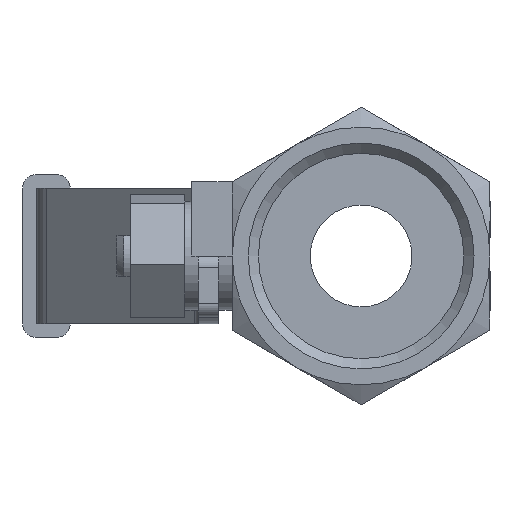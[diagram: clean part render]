
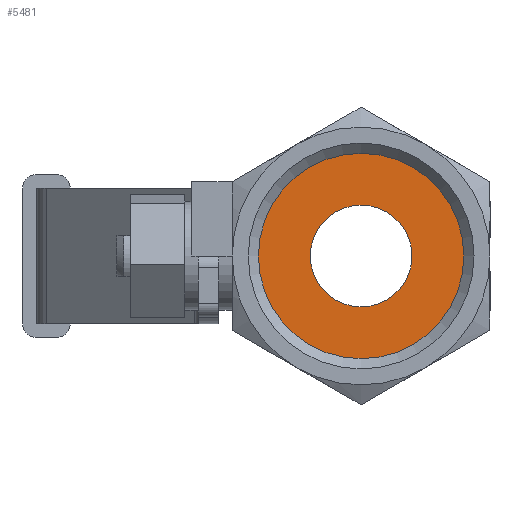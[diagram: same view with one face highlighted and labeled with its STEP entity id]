
A CAD part, left-side view. The second image highlights one B-rep face of the part: STEP entity #5481.
In plain terms, the highlighted planar face has unit normal (-1, 0, 0).
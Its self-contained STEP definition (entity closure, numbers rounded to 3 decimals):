
#137=FACE_BOUND('',#910,.T.);
#331=PLANE('',#5889);
#591=FACE_OUTER_BOUND('',#909,.T.);
#909=EDGE_LOOP('',(#4699));
#910=EDGE_LOOP('',(#4700));
#2066=CIRCLE('',#5549,7.5);
#2163=CIRCLE('',#5888,15.146);
#2192=VERTEX_POINT('',#7346);
#2625=VERTEX_POINT('',#8718);
#2674=EDGE_CURVE('',#2192,#2192,#2066,.T.);
#3323=EDGE_CURVE('',#2625,#2625,#2163,.T.);
#4699=ORIENTED_EDGE('',*,*,#3323,.T.);
#4700=ORIENTED_EDGE('',*,*,#2674,.T.);
#5481=ADVANCED_FACE('',(#591,#137),#331,.T.);
#5549=AXIS2_PLACEMENT_3D('',#7347,#5965,#5966);
#5888=AXIS2_PLACEMENT_3D('',#8719,#7183,#7184);
#5889=AXIS2_PLACEMENT_3D('',#8721,#7186,#7187);
#5965=DIRECTION('center_axis',(1.,0.,0.));
#5966=DIRECTION('ref_axis',(0.,0.,-1.));
#7183=DIRECTION('center_axis',(-1.,0.,0.));
#7184=DIRECTION('ref_axis',(0.,0.,
1.));
#7186=DIRECTION('center_axis',(-1.,0.,0.));
#7187=DIRECTION('ref_axis',(0.,0.,
1.));
#7346=CARTESIAN_POINT('',(-54.31,-13.038,7.5));
#7347=CARTESIAN_POINT('Origin',(-54.31,-13.038,0.));
#8718=CARTESIAN_POINT('',(-54.31,-13.038,-15.146));
#8719=CARTESIAN_POINT('Origin',(-54.31,-13.038,0.));
#8721=CARTESIAN_POINT('Origin',(-54.31,-13.038,0.));
